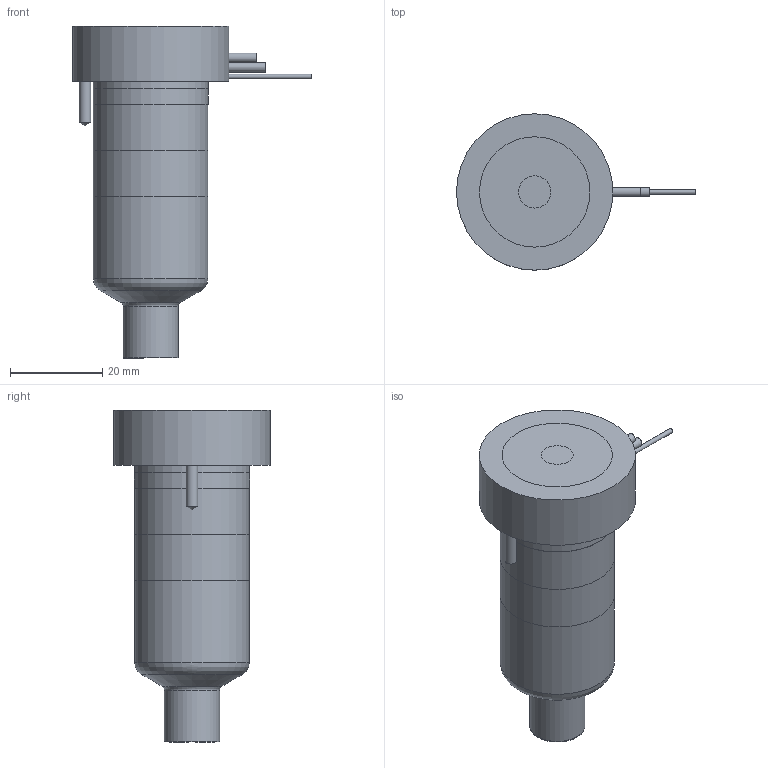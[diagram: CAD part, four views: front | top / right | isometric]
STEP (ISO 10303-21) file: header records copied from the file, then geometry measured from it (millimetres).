
FILE_DESCRIPTION(/* description */ (''),/* implementation_level */ '2;1');
FILE_NAME(/* name */ 'MXTVSN-MXIVSN-MXOVSN16055_200C_b',/* time_stamp */ '2007-01-18T09:56:14+13:00',/* author */ (''),/* organization */ (''),/* preprocessor_version */ 'ST-DEVELOPER v9',/* originating_system */ 'UGS - NX 4.0',/* authorisation */ '');
FILE_SCHEMA (('CONFIG_CONTROL_DESIGN'));
Length unit declared in the file: millimetre
Products named in the file (1): MXTVSN-MXIVSN-MXOVSN16055_200C_b
Bounding box: 51.95 x 34 x 72.16 mm (x, y, z)
Volume: 64415 mm3; surface area: 15697.9 mm2
Topology: 7 solids, 7 shells, 80 faces, 151 edges, 97 vertices
Faces by surface type: plane 35, cylinder 27, cone 10, torus 7, bspline 1
Full cylindrical faces by diameter (mm): 1 x3, 2 x2, 2.5 x3, 7 x1, 11.61 x1, 12.01 x2, 14.8 x1, 20.8 x1, 24.9 x2, 25 x2, 34 x1
Entity records: 1922 total; most frequent: CARTESIAN_POINT 378, DIRECTION 330, ORIENTED_EDGE 216, AXIS2_PLACEMENT_3D 152, EDGE_LOOP 126, EDGE_CURVE 108, VERTEX_POINT 89, ADVANCED_FACE 80
